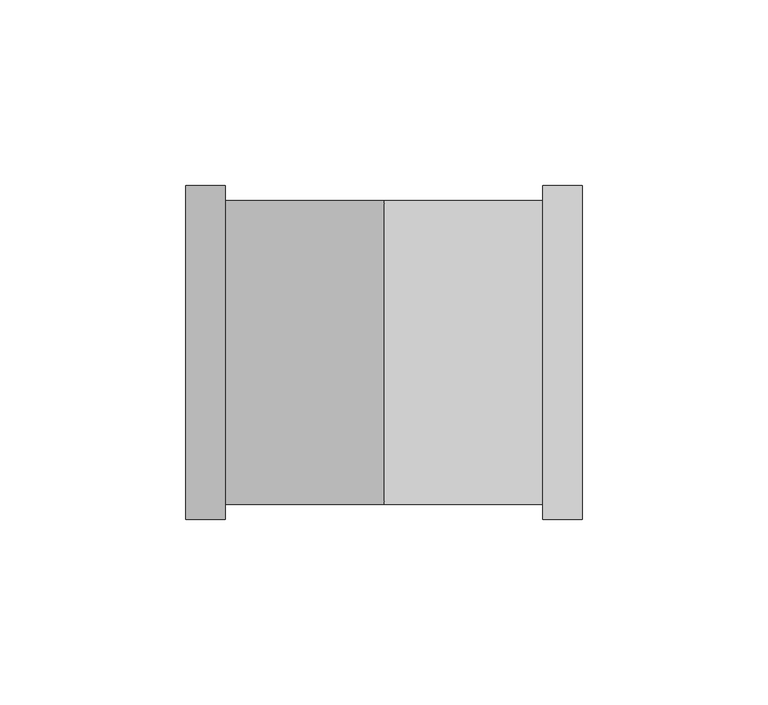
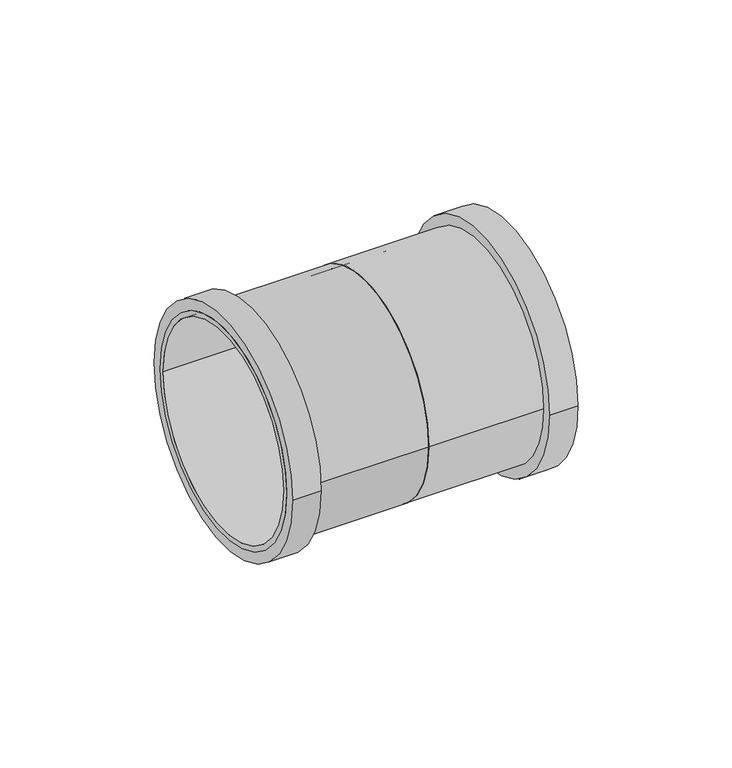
"""IFC4 building model written with IfcOpenShell, lengths in millimetres: pipe fitting geometry, Superdrain SKU-coupler : Superdrain SKU-coupler."""

from ifc_helpers import new_model, si_unit, point, frame, origin, origin_2d, place, context, project, spatial, circle_curve, trimmed, segment, composite_curve, outline, extrude, source, transform, mapped, element, save


def pipe_fitting_47bf5896(model_context):
    return source(origin(), model_context, "Body", "SweptSolid", [
        extrude(outline(composite_curve([segment(trimmed(circle_curve(origin_2d(), 40.95), [point((40.95, 0.0))], [point((-40.95, 0.0))], False, "CARTESIAN"), True, "CONTINUOUS"), segment(trimmed(circle_curve(origin_2d(), 40.95), [point((-40.95, 0.0))], [point((40.95, 0.0))], False, "CARTESIAN"), True, "CONTINUOUS")], self_intersect=False), holes=[composite_curve([segment(trimmed(circle_curve(origin_2d(), 39.0), [point((39.0, 0.0))], [point((-39.0, 0.0))], True, "CARTESIAN"), True, "CONTINUOUS"), segment(trimmed(circle_curve(origin_2d(), 39.0), [point((-39.0, 0.0))], [point((39.0, 0.0))], True, "CARTESIAN"), True, "CONTINUOUS")], self_intersect=False)]), frame((0.0, 0.0, 0.0), z_axis=(1.0, 0.0, 0.0), x_axis=(0.0, 1.0, 0.0)), (0.0, 0.0, 1.0), 53.5),
        extrude(outline(composite_curve([segment(trimmed(circle_curve(origin_2d(), 45.045), [point((45.045, 0.0))], [point((-45.045, 0.0))], False, "CARTESIAN"), True, "CONTINUOUS"), segment(trimmed(circle_curve(origin_2d(), 45.045), [point((-45.045, 0.0))], [point((45.045, 0.0))], False, "CARTESIAN"), True, "CONTINUOUS")], self_intersect=False), holes=[composite_curve([segment(trimmed(circle_curve(origin_2d(), 39.0), [point((39.0, 0.0))], [point((-39.0, 0.0))], True, "CARTESIAN"), True, "CONTINUOUS"), segment(trimmed(circle_curve(origin_2d(), 39.0), [point((-39.0, 0.0))], [point((39.0, 0.0))], True, "CARTESIAN"), True, "CONTINUOUS")], self_intersect=False)]), frame((42.8, 0.0, 0.0), z_axis=(1.0, 0.0, 0.0), x_axis=(0.0, 1.0, 0.0)), (0.0, 0.0, 1.0), 10.7),
        extrude(outline(composite_curve([segment(trimmed(circle_curve(origin_2d(), 40.95), [point((-40.95, 0.0))], [point((40.95, 0.0))], False, "CARTESIAN"), True, "CONTINUOUS"), segment(trimmed(circle_curve(origin_2d(), 40.95), [point((40.95, 0.0))], [point((-40.95, 0.0))], False, "CARTESIAN"), True, "CONTINUOUS")], self_intersect=False), holes=[composite_curve([segment(trimmed(circle_curve(origin_2d(), 39.0), [point((-39.0, 0.0))], [point((39.0, 0.0))], True, "CARTESIAN"), True, "CONTINUOUS"), segment(trimmed(circle_curve(origin_2d(), 39.0), [point((39.0, 0.0))], [point((-39.0, 0.0))], True, "CARTESIAN"), True, "CONTINUOUS")], self_intersect=False)]), frame((-53.5, 0.0, 0.0), z_axis=(1.0, 0.0, 0.0), x_axis=(0.0, 1.0, 0.0)), (0.0, 0.0, 1.0), 53.5),
        extrude(outline(composite_curve([segment(trimmed(circle_curve(origin_2d(), 45.045), [point((-45.045, 0.0))], [point((45.045, 0.0))], False, "CARTESIAN"), True, "CONTINUOUS"), segment(trimmed(circle_curve(origin_2d(), 45.045), [point((45.045, 0.0))], [point((-45.045, 0.0))], False, "CARTESIAN"), True, "CONTINUOUS")], self_intersect=False), holes=[composite_curve([segment(trimmed(circle_curve(origin_2d(), 39.0), [point((-39.0, 0.0))], [point((39.0, 0.0))], True, "CARTESIAN"), True, "CONTINUOUS"), segment(trimmed(circle_curve(origin_2d(), 39.0), [point((39.0, 0.0))], [point((-39.0, 0.0))], True, "CARTESIAN"), True, "CONTINUOUS")], self_intersect=False)]), frame((-53.5, 0.0, 0.0), z_axis=(1.0, 0.0, 0.0), x_axis=(0.0, 1.0, 0.0)), (0.0, 0.0, 1.0), 10.7),
    ])


if __name__ == "__main__":
    model = new_model("IFC4")
    model_context = context("Model", 3, world=origin())
    ifc_project = project(units=[si_unit("LENGTHUNIT", "METRE", prefix="MILLI")], contexts=[model_context])
    site = spatial("IfcSite", under=ifc_project)
    building = spatial("IfcBuilding", under=site)
    placement = place(None, origin())
    pipe_fitting_shape = pipe_fitting_47bf5896(model_context)
    element("IfcPipeFitting", 1, ObjectType="Superdrain SKU-coupler : Superdrain SKU-coupler", at=placement, inside=building, context=model_context, shape_type="MappedRepresentation", body=[
        mapped(pipe_fitting_shape, transform((0.0, 0.0, 0.0), x_axis=(1.0, 0.0, 0.0), y_axis=(0.0, 1.0, 0.0), z_axis=(0.0, 0.0, 1.0))),
    ])
    save(model, "model.ifc")
